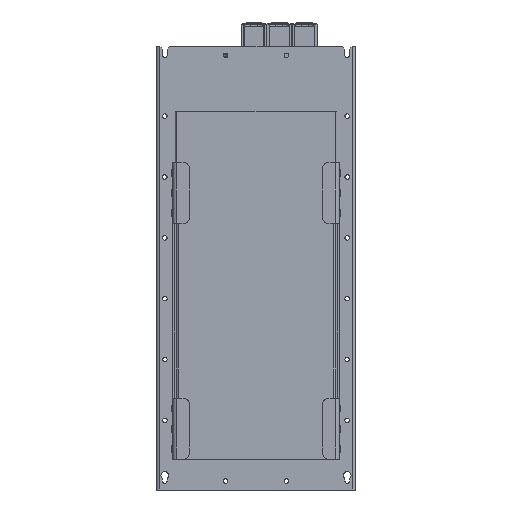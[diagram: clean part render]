
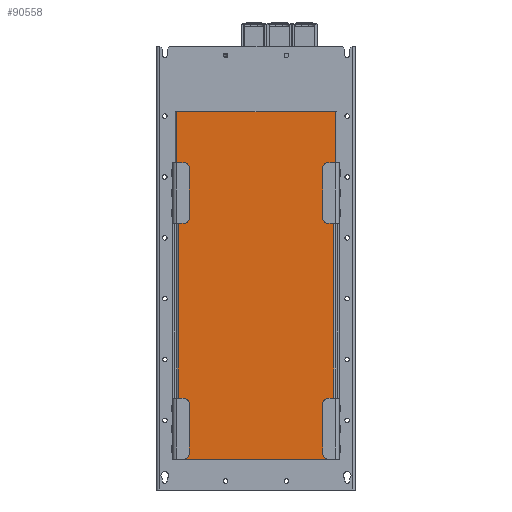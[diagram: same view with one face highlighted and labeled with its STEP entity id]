
A CAD part, front view. The second image highlights one B-rep face of the part: STEP entity #90558.
In plain terms, the highlighted planar face has unit normal (0, -1, 0).
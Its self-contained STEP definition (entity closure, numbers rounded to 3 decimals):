
#1030 = DIRECTION ( 'NONE',  ( 0., 0., -1. ) ) ;
#1557 = CARTESIAN_POINT ( 'NONE',  ( 155.9, -125., 400. ) ) ;
#1918 = CARTESIAN_POINT ( 'NONE',  ( -203.788, -125., -185. ) ) ;
#2598 = CARTESIAN_POINT ( 'NONE',  ( -153., -125., 400. ) ) ;
#2693 = VERTEX_POINT ( 'NONE', #71081 ) ;
#4224 = EDGE_CURVE ( 'NONE', #42187, #78865, #40941, .T. ) ;
#5831 = LINE ( 'NONE', #94550, #100742 ) ;
#6976 = VERTEX_POINT ( 'NONE', #87344 ) ;
#7264 = EDGE_CURVE ( 'NONE', #78865, #6976, #68319, .T. ) ;
#9057 = VERTEX_POINT ( 'NONE', #102212 ) ;
#9255 = CARTESIAN_POINT ( 'NONE',  ( 0., -125., 500. ) ) ;
#9494 = VERTEX_POINT ( 'NONE', #64618 ) ;
#10532 = CARTESIAN_POINT ( 'NONE',  ( 153., -125., -185. ) ) ;
#11355 = ORIENTED_EDGE ( 'NONE', *, *, #48567, .T. ) ;
#12389 = CARTESIAN_POINT ( 'NONE',  ( 153., -125., 400. ) ) ;
#12903 = VECTOR ( 'NONE', #95142, 1000. ) ;
#14260 = CARTESIAN_POINT ( 'NONE',  ( -155.9, -125., 400. ) ) ;
#17618 = VECTOR ( 'NONE', #32571, 1000. ) ;
#19598 = LINE ( 'NONE', #35333, #38662 ) ;
#19717 = PLANE ( 'NONE',  #69952 ) ;
#24276 = VERTEX_POINT ( 'NONE', #31176 ) ;
#30211 = ORIENTED_EDGE ( 'NONE', *, *, #36935, .T. ) ;
#31176 = CARTESIAN_POINT ( 'NONE',  ( -153., -125., 400. ) ) ;
#32571 = DIRECTION ( 'NONE',  ( 0., 0., 1. ) ) ;
#33564 = DIRECTION ( 'NONE',  ( 0., 0., 1. ) ) ;
#35333 = CARTESIAN_POINT ( 'NONE',  ( -155.9, -125., 400. ) ) ;
#35388 = ORIENTED_EDGE ( 'NONE', *, *, #55053, .T. ) ;
#36935 = EDGE_CURVE ( 'NONE', #9494, #9057, #5831, .T. ) ;
#38662 = VECTOR ( 'NONE', #49539, 1000. ) ;
#40898 = LINE ( 'NONE', #1557, #66943 ) ;
#40941 = LINE ( 'NONE', #72998, #17618 ) ;
#41227 = DIRECTION ( 'NONE',  ( 0., -1., 0. ) ) ;
#42187 = VERTEX_POINT ( 'NONE', #10532 ) ;
#42307 = ORIENTED_EDGE ( 'NONE', *, *, #7264, .T. ) ;
#48567 = EDGE_CURVE ( 'NONE', #80342, #9494, #61103, .T. ) ;
#49391 = EDGE_LOOP ( 'NONE', ( #102633, #11355, #30211, #35388, #100475, #78863, #70558, #42307 ) ) ;
#49539 = DIRECTION ( 'NONE',  ( 1., 0., 0. ) ) ;
#54403 = EDGE_CURVE ( 'NONE', #24276, #2693, #90280, .T. ) ;
#55053 = EDGE_CURVE ( 'NONE', #9057, #24276, #19598, .T. ) ;
#57075 = VECTOR ( 'NONE', #100370, 1000. ) ;
#59553 = DIRECTION ( 'NONE',  ( -1., 0., 0. ) ) ;
#61103 = LINE ( 'NONE', #68989, #69771 ) ;
#63666 = VECTOR ( 'NONE', #1030, 1000. ) ;
#64618 = CARTESIAN_POINT ( 'NONE',  ( -155.9, -125., 500. ) ) ;
#66943 = VECTOR ( 'NONE', #33564, 1000. ) ;
#68319 = LINE ( 'NONE', #14260, #57075 ) ;
#68989 = CARTESIAN_POINT ( 'NONE',  ( -159.4, -125., 500. ) ) ;
#69771 = VECTOR ( 'NONE', #59553, 1000. ) ;
#69952 = AXIS2_PLACEMENT_3D ( 'NONE', #9255, #41227, #73286 ) ;
#70558 = ORIENTED_EDGE ( 'NONE', *, *, #4224, .T. ) ;
#71081 = CARTESIAN_POINT ( 'NONE',  ( -153., -125., -185. ) ) ;
#72998 = CARTESIAN_POINT ( 'NONE',  ( 153., -125., -400. ) ) ;
#73286 = DIRECTION ( 'NONE',  ( 0., 0., -1. ) ) ;
#73821 = LINE ( 'NONE', #1918, #12903 ) ;
#78863 = ORIENTED_EDGE ( 'NONE', *, *, #81372, .T. ) ;
#78865 = VERTEX_POINT ( 'NONE', #12389 ) ;
#80342 = VERTEX_POINT ( 'NONE', #90349 ) ;
#81372 = EDGE_CURVE ( 'NONE', #2693, #42187, #73821, .T. ) ;
#87344 = CARTESIAN_POINT ( 'NONE',  ( 155.9, -125., 400. ) ) ;
#90280 = LINE ( 'NONE', #2598, #63666 ) ;
#90349 = CARTESIAN_POINT ( 'NONE',  ( 155.9, -125., 500. ) ) ;
#90558 = ADVANCED_FACE ( 'NONE', ( #91649 ), #19717, .T. ) ;
#91649 = FACE_OUTER_BOUND ( 'NONE', #49391, .T. ) ;
#92991 = DIRECTION ( 'NONE',  ( 0., 0., -1. ) ) ;
#94550 = CARTESIAN_POINT ( 'NONE',  ( -155.9, -125., 500. ) ) ;
#95142 = DIRECTION ( 'NONE',  ( 1., 0., 0. ) ) ;
#100370 = DIRECTION ( 'NONE',  ( 1., 0., 0. ) ) ;
#100475 = ORIENTED_EDGE ( 'NONE', *, *, #54403, .T. ) ;
#100742 = VECTOR ( 'NONE', #92991, 1000. ) ;
#102212 = CARTESIAN_POINT ( 'NONE',  ( -155.9, -125., 400. ) ) ;
#102394 = EDGE_CURVE ( 'NONE', #6976, #80342, #40898, .T. ) ;
#102633 = ORIENTED_EDGE ( 'NONE', *, *, #102394, .T. ) ;
